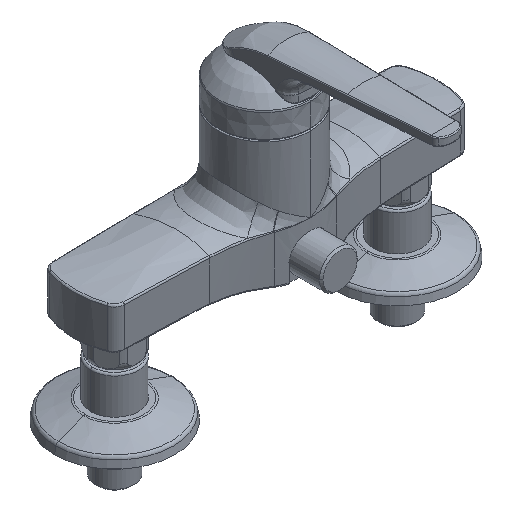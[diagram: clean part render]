
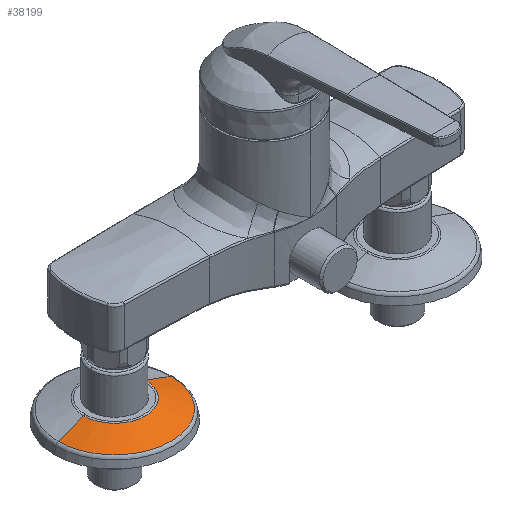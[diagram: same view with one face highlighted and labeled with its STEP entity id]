
A CAD part, isometric view. The second image highlights one B-rep face of the part: STEP entity #38199.
In plain terms, the highlighted conical face has half-angle 70 degrees and reference radius 23.624 mm.
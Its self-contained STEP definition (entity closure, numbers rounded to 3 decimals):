
#36018=CARTESIAN_POINT('',(-76.5,0.,-38.969));
#36019=DIRECTION('',(0.,0.,1.));
#36020=DIRECTION('',(-1.,0.,0.));
#36021=AXIS2_PLACEMENT_3D('',#36018,#36019,#36020);
#36043=DIRECTION('',(0.94,0.,0.342));
#36044=VECTOR('',#36043,14.725);
#36045=CARTESIAN_POINT('',(-107.042,0.,
-44.005));
#36046=LINE('',#36045,#36044);
#36047=DIRECTION('',(-0.94,0.,0.342));
#36048=VECTOR('',#36047,14.725);
#36049=CARTESIAN_POINT('',(-45.958,0.,
-44.005));
#36050=LINE('',#36049,#36048);
#36051=CARTESIAN_POINT('',(-76.5,0.,-44.005));
#36052=DIRECTION('',(0.,0.,1.));
#36053=DIRECTION('',(-1.,0.,0.));
#36054=AXIS2_PLACEMENT_3D('',#36051,#36052,#36053);
#36855=CARTESIAN_POINT('',(-107.042,0.,-44.005));
#36856=CARTESIAN_POINT('',(-45.958,0.,-44.005));
#36857=VERTEX_POINT('',#36855);
#36858=VERTEX_POINT('',#36856);
#36867=CARTESIAN_POINT('',(-93.205,0.,-38.969));
#36868=CARTESIAN_POINT('',(-59.795,0.,-38.969));
#36869=VERTEX_POINT('',#36867);
#36870=VERTEX_POINT('',#36868);
#38187=CARTESIAN_POINT('',(-76.5,0.,-41.487));
#38188=DIRECTION('',(0.,0.,-1.));
#38189=DIRECTION('',(-1.,0.,0.));
#38190=AXIS2_PLACEMENT_3D('',#38187,#38188,#38189);
#38191=CONICAL_SURFACE('',#38190,23.624,70.);
#38192=ORIENTED_EDGE('',*,*,#38116,.T.);
#38193=ORIENTED_EDGE('',*,*,#38170,.F.);
#38195=ORIENTED_EDGE('',*,*,#38194,.F.);
#38196=ORIENTED_EDGE('',*,*,#38166,.T.);
#38197=EDGE_LOOP('',(#38192,#38193,#38195,#38196));
#38198=FACE_OUTER_BOUND('',#38197,.F.);
#36022=CIRCLE('',#36021,16.705);
#36055=CIRCLE('',#36054,30.542);
#38116=EDGE_CURVE('',#36869,#36870,#36022,.T.);
#38166=EDGE_CURVE('',#36857,#36869,#36046,.T.);
#38170=EDGE_CURVE('',#36858,#36870,#36050,.T.);
#38194=EDGE_CURVE('',#36857,#36858,#36055,.T.);
#38199=ADVANCED_FACE('',(#38198),#38191,.T.);
